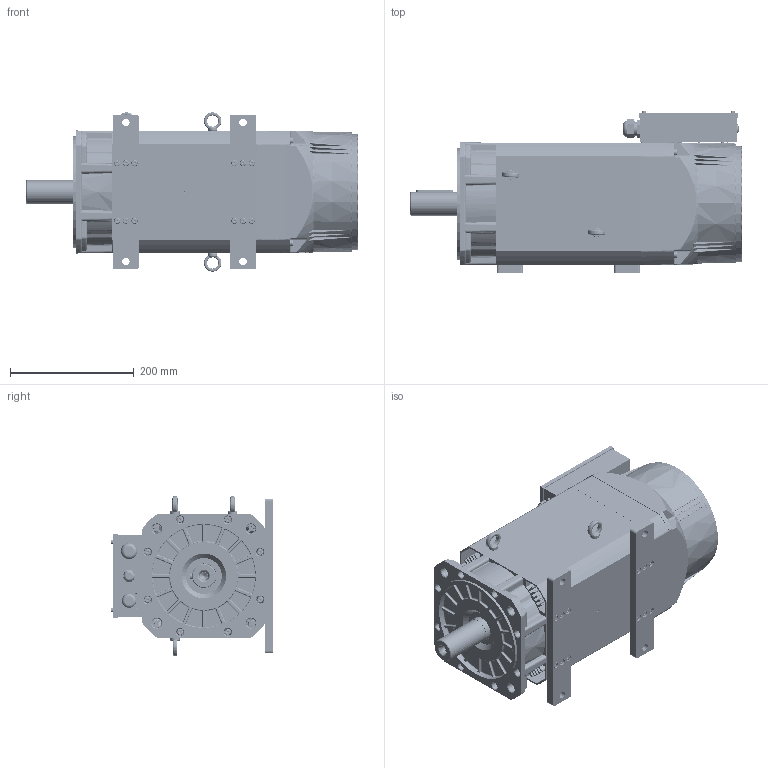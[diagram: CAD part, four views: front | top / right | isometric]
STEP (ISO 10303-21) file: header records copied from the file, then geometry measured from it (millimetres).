
FILE_DESCRIPTION (( 'STEP AP203' ), '1' );
FILE_NAME ('200L-B35-38J俋倛芞.STEP', '2020-10-16T06:13:24', ( '' ), ( '' ), 'SwSTEP 2.0', 'SolidWorks 2016', '' );
FILE_SCHEMA (( 'CONFIG_CONTROL_DESIGN' ));
Length unit declared in the file: millimetre
Products named in the file (58): deep groove ball bearings gb_Rolling bearings 6308 GB 276-94; 200S隅赽窒璃; flat washer regular_am_B18.22M - Plain washer, 4 mm, regular; plain washers-n series-grade a gb_GB_FASTENER_WASHER_PWNA 5; spring lock washers--normal type gb_GB_FASTENER_WASHER_SW 4; cross recessed pan head screws gb_GB_CROSS_SCREWS_TYPE1 M3X12-12  H type-N; 200S隅赽諶え; 200菁褐; M8X12裂遠; UVW隅砱梓ワ; cross recessed pan head screws gb_GB_CROSS_SCREWS_TYPE1 M4X10-10  H type-N; 晤鎢ん隅砱梓ワ; 200粣3.7kw; 200L-B35-38J俋倛芞; M24X1.5蹟杶; 200瑤脣ヶ堤盄諉盄碟; circlips for shaft--type b gb_GB_CONNECTING_PIECE_RINGS_CSB 30; 200諉盄碟裔躇猾菜; 200滅鳥欶; socket head cap screw_am_B18.3.1M - 4 x 0.7 x 20 Hex SHCS -- 20NHX; cross recessed small pan head screws gb_GB_CROSS_SCREWS_TYPE3 M5X10-10-N; hex socket set screws with cone point gb_GB_FASTENER_SCREWS_HSCP M6X6-N; 200呿蹋瑞欶; hex lobular socket head cap screws-4.8 gb_GB_HEXAGON_TYPE21 M6X25-25-N; hex lobular socket head cap screws-8.8 gb_GB_HEXAGON_TYPE22 M6X16-N; 200諉盄碟窒璃; 200S隅赽軞傖; 200风机过线圈; 200风机（煜微180FZL-7）; M16X1.5蹟杶; 瑞儂瑞欶窒璃; 嫖萇晤鎢ん; 200S蛌赽窒璃; 200ヶ裔-171102; 200諉盄碟裔; socket head cap screw_am_B18.3.1M - 5 x 0.8 x 35 Hex SHCS -- 22NHX; hex lobular socket head cap screws-4.8 gb_GB_HEXAGON_TYPE21 M6X30-30-N; pan cross head_am_B18.6.7M - M4 x 0.7 x 8 Type I Cross Recessed PHMS --8N; 200粣創揤裔; 晤鎢ん橈埽翐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
Assembly tree (155 placements, depth 3):
  200L-B35-38J俋倛芞
    200L儂褲1
    200S隅赽窒璃
      200S隅赽軞傖
      200S隅赽諶え  x6
    200ヶ裔-171102
    hex lobular socket head cap screws-4.8 gb_GB_HEXAGON_TYPE21 M6X30-30-N  x8
    spring lock washers--normal type gb_GB_FASTENER_WASHER_SW 6  x28
    200菁褐  x2
    hex lobular socket head cap screws-4.8 gb_GB_HEXAGON_TYPE21 M6X25-25-N  x12
    200S蛌赽窒璃
      200S翉臏蛌赽
      200粣3.7kw
      38J
    deep groove ball bearings gb_Rolling bearings 6308 GB 276-94
    deep groove ball bearings gb_Rolling bearings 6306 GB 276-94
    circlips for shaft--type b gb_GB_CONNECTING_PIECE_RINGS_CSB 30
    200粣創揤裔
    17-186 蚗艙綴裔200
    spring lock washers--normal type gb_GB_FASTENER_WASHER_SW 5  x3
    socket head cap screw_am_B18.3.1M - 5 x 0.8 x 35 Hex SHCS -- 22NHX  x3
    嫖萇晤鎢ん
    flat washer regular_am_B18.22M - Plain washer, 4 mm, regular
    spring lock washers--normal type gb_GB_FASTENER_WASHER_SW 4
    socket head cap screw_am_B18.3.1M - 4 x 0.7 x 20 Hex SHCS -- 20NHX
    spring lock washers--normal type gb_GB_FASTENER_WASHER_SW 3  x2
    socket head cap screw_am_B18.3.1M - 3 x 0.5 x 8 Hex SHCS -- 8NHX  x2
    200滅鳥欶
    pan cross head_am_B18.6.7M - M4 x 0.7 x 8 Type I Cross Recessed PHMS --8N  x4
    hexagon socket head cap screws gb_GB_FASTENER_SCREWS_HSHCS M6X30-N  x8
    瑞儂瑞欶窒璃
      200呿蹋瑞欶
      200风机（煜微180FZL-7）
      cross recessed pan head screws gb_GB_CROSS_SCREWS_TYPE1 M4X10-10  H type-N  x4
    hex lobular socket head cap screws-8.8 gb_GB_HEXAGON_TYPE22 M6X16-N  x4
    180-200諉盄碟躇猾菜
    200諉盄碟窒璃
      200瑤脣ヶ堤盄諉盄碟
      M24X1.5蹟杶
      200风机过线圈
      M20X1.5蹟杶
      M16X1.5蹟杶
      200諉盄翐
      晤鎢ん橈埽翐  x4
      晤鎢ん啣
      200諉盄碟裔躇猾菜
      200諉盄碟裔
      UVW隅砱梓ワ
      晤鎢ん隅砱梓ワ
      cross recessed cheese head screws gb_GB_CROSS_SCREWS_TYPE2 M4X10-10  H type-N  x4
      spring lock washers--normal type gb_GB_FASTENER_WASHER_SW 4  x4
      plain washers-n series-grade a gb_GB_FASTENER_WASHER_PWNA 4  x4
      cross recessed pan head screws gb_GB_CROSS_SCREWS_TYPE1 M3X12-12  H type-N  x4
      cross recessed pan head screws gb_GB_CROSS_SCREWS_TYPE1 M4X5-5  H type-N  x2
    M8X12裂遠  x3
    cross recessed pan head screws gb_GB_CROSS_SCREWS_TYPE1 M5X10-10  H type-N  x2
    plain washers-n series-grade a gb_GB_FASTENER_WASHER_PWNA 5  x2
    cross recessed small pan head screws gb_GB_CROSS_SCREWS_TYPE3 M5X10-10-N  x2
    hex socket set screws with cone point gb_GB_FASTENER_SCREWS_HSCP M6X6-N  x3
    38J
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Bounding box: 535.5 x 262.25 x 257 mm (x, y, z)
Volume: 8015944.8 mm3; surface area: 2285357.8 mm2
Topology: 151 solids, 151 shells, 8095 faces, 20349 edges, 12486 vertices
Faces by surface type: plane 2536, bspline 2144, cylinder 2006, cone 981, torus 334, sphere 94
Entity records: 270066 total; most frequent: CARTESIAN_POINT 115657, ORIENTED_EDGE 32980, DIRECTION 27600, EDGE_CURVE 16490, AXIS2_PLACEMENT_3D 10878, VERTEX_POINT 10161, EDGE_LOOP 7091, ADVANCED_FACE 6564
